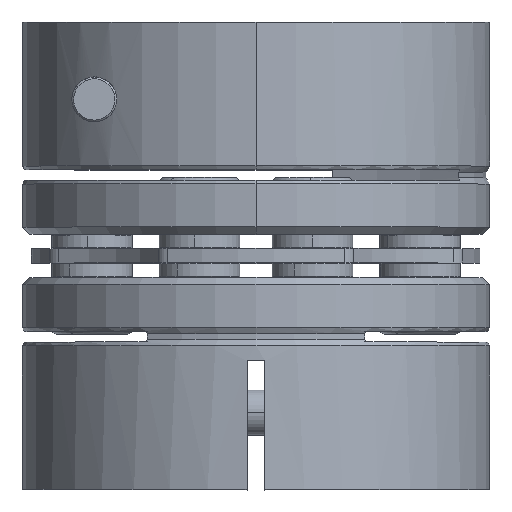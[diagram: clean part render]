
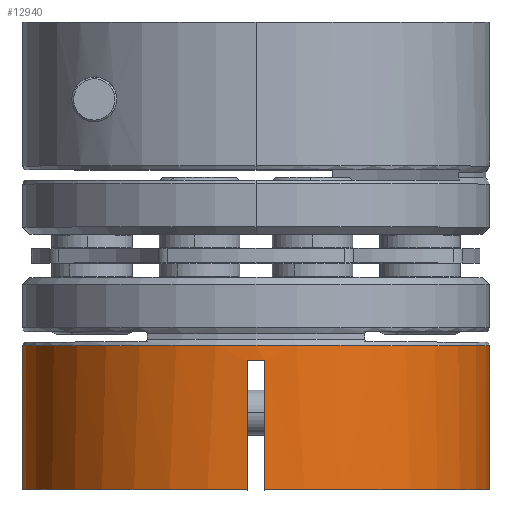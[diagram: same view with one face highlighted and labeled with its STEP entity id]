
A CAD part, top view. The second image highlights one B-rep face of the part: STEP entity #12940.
In plain terms, the highlighted cylindrical face has radius 13 mm (diameter 26 mm), a partial arc.
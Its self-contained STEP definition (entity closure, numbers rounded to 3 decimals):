
#44 = ORIENTED_EDGE ( 'NONE', *, *, #17810, .F. ) ;
#208 = CARTESIAN_POINT ( 'NONE',  ( 1.255, -19.154, 12.99 ) ) ;
#622 = CARTESIAN_POINT ( 'NONE',  ( 14.755, -18.289, 0. ) ) ;
#1401 = DIRECTION ( 'NONE',  ( 0., 1., 0. ) ) ;
#1512 = ORIENTED_EDGE ( 'NONE', *, *, #4418, .F. ) ;
#1865 = EDGE_CURVE ( 'NONE', #5185, #16535, #20853, .T. ) ;
#1908 = FACE_OUTER_BOUND ( 'NONE', #15230, .T. ) ;
#2623 = EDGE_CURVE ( 'NONE', #16792, #3330, #7113, .T. ) ;
#2827 = DIRECTION ( 'NONE',  ( 0., -1., 0. ) ) ;
#3167 = AXIS2_PLACEMENT_3D ( 'NONE', #4950, #5027, #8514 ) ;
#3330 = VERTEX_POINT ( 'NONE', #8039 ) ;
#3362 = CARTESIAN_POINT ( 'NONE',  ( 2.255, -26.289, 12.99 ) ) ;
#3477 = CARTESIAN_POINT ( 'NONE',  ( 14.755, -26.289, 0. ) ) ;
#3539 = CARTESIAN_POINT ( 'NONE',  ( 1.755, -26.289, 0. ) ) ;
#4418 = EDGE_CURVE ( 'NONE', #11272, #5185, #11419, .T. ) ;
#4730 = VECTOR ( 'NONE', #13864, 1000. ) ;
#4950 = CARTESIAN_POINT ( 'NONE',  ( 1.755, -18.289, 0. ) ) ;
#5027 = DIRECTION ( 'NONE',  ( 0., 1., 0. ) ) ;
#5185 = VERTEX_POINT ( 'NONE', #11595 ) ;
#5431 = ORIENTED_EDGE ( 'NONE', *, *, #5763, .T. ) ;
#5603 = CARTESIAN_POINT ( 'NONE',  ( 1.255, -26.289, 12.99 ) ) ;
#5763 = EDGE_CURVE ( 'NONE', #3330, #8335, #20631, .T. ) ;
#6035 = VECTOR ( 'NONE', #2827, 1000. ) ;
#6315 = CARTESIAN_POINT ( 'NONE',  ( 1.255, -14.489, 12.99 ) ) ;
#7030 = VERTEX_POINT ( 'NONE', #5603 ) ;
#7113 = B_SPLINE_CURVE_WITH_KNOTS ( 'NONE', 3,
 ( #20752, #10036, #20988, #10182 ),
 .UNSPECIFIED., .F., .F.,
 ( 4, 4 ),
 ( 0., 0.001 ),
 .UNSPECIFIED. ) ;
#8039 = CARTESIAN_POINT ( 'NONE',  ( 2.255, -19.154, 12.99 ) ) ;
#8335 = VERTEX_POINT ( 'NONE', #3362 ) ;
#8514 = DIRECTION ( 'NONE',  ( -1., 0., 0. ) ) ;
#8518 = CARTESIAN_POINT ( 'NONE',  ( -11.245, -56.94, 0. ) ) ;
#8716 = CARTESIAN_POINT ( 'NONE',  ( 1.755, -26.289, 0. ) ) ;
#8870 = CARTESIAN_POINT ( 'NONE',  ( 14.755, -56.94, 0. ) ) ;
#9328 = EDGE_CURVE ( 'NONE', #7030, #11272, #18215, .T. ) ;
#9727 = DIRECTION ( 'NONE',  ( -1., 0., 0. ) ) ;
#9876 = CARTESIAN_POINT ( 'NONE',  ( -11.245, -26.289, 0. ) ) ;
#10036 = CARTESIAN_POINT ( 'NONE',  ( 1.589, -19.16, 13.003 ) ) ;
#10182 = CARTESIAN_POINT ( 'NONE',  ( 2.255, -19.154, 12.99 ) ) ;
#10183 = VECTOR ( 'NONE', #18192, 1000. ) ;
#11272 = VERTEX_POINT ( 'NONE', #9876 ) ;
#11419 = LINE ( 'NONE', #8518, #13968 ) ;
#11595 = CARTESIAN_POINT ( 'NONE',  ( -11.245, -18.289, 0. ) ) ;
#11761 = CARTESIAN_POINT ( 'NONE',  ( 1.755, -56.94, 0. ) ) ;
#12940 = ADVANCED_FACE ( 'NONE', ( #1908 ), #22236, .T. ) ;
#13784 = AXIS2_PLACEMENT_3D ( 'NONE', #8716, #22861, #15685 ) ;
#13864 = DIRECTION ( 'NONE',  ( 0., -1., 0. ) ) ;
#13968 = VECTOR ( 'NONE', #1401, 1000. ) ;
#14146 = ORIENTED_EDGE ( 'NONE', *, *, #1865, .F. ) ;
#14569 = AXIS2_PLACEMENT_3D ( 'NONE', #3539, #19818, #17803 ) ;
#14596 = AXIS2_PLACEMENT_3D ( 'NONE', #11761, #22549, #9727 ) ;
#14600 = ORIENTED_EDGE ( 'NONE', *, *, #9328, .F. ) ;
#15230 = EDGE_LOOP ( 'NONE', ( #44, #17862, #14146, #1512, #14600, #19546, #18928, #5431 ) ) ;
#15507 = EDGE_CURVE ( 'NONE', #16792, #7030, #17767, .T. ) ;
#15685 = DIRECTION ( 'NONE',  ( 1., 0., 0. ) ) ;
#15835 = CIRCLE ( 'NONE', #14569, 13. ) ;
#16535 = VERTEX_POINT ( 'NONE', #622 ) ;
#16792 = VERTEX_POINT ( 'NONE', #208 ) ;
#17767 = LINE ( 'NONE', #6315, #6035 ) ;
#17803 = DIRECTION ( 'NONE',  ( 1., 0., 0. ) ) ;
#17810 = EDGE_CURVE ( 'NONE', #21812, #8335, #15835, .T. ) ;
#17862 = ORIENTED_EDGE ( 'NONE', *, *, #19109, .T. ) ;
#18192 = DIRECTION ( 'NONE',  ( 0., 1., 0. ) ) ;
#18215 = CIRCLE ( 'NONE', #13784, 13. ) ;
#18928 = ORIENTED_EDGE ( 'NONE', *, *, #2623, .T. ) ;
#19023 = CARTESIAN_POINT ( 'NONE',  ( 2.255, -14.489, 12.99 ) ) ;
#19109 = EDGE_CURVE ( 'NONE', #21812, #16535, #19988, .T. ) ;
#19546 = ORIENTED_EDGE ( 'NONE', *, *, #15507, .F. ) ;
#19818 = DIRECTION ( 'NONE',  ( 0., -1., 0. ) ) ;
#19988 = LINE ( 'NONE', #8870, #10183 ) ;
#20631 = LINE ( 'NONE', #19023, #4730 ) ;
#20752 = CARTESIAN_POINT ( 'NONE',  ( 1.255, -19.154, 12.99 ) ) ;
#20853 = CIRCLE ( 'NONE', #3167, 13. ) ;
#20988 = CARTESIAN_POINT ( 'NONE',  ( 1.922, -19.16, 13.003 ) ) ;
#21812 = VERTEX_POINT ( 'NONE', #3477 ) ;
#22236 = CYLINDRICAL_SURFACE ( 'NONE', #14596, 13. ) ;
#22549 = DIRECTION ( 'NONE',  ( 0., 1., 0. ) ) ;
#22861 = DIRECTION ( 'NONE',  ( 0., -1., 0. ) ) ;
